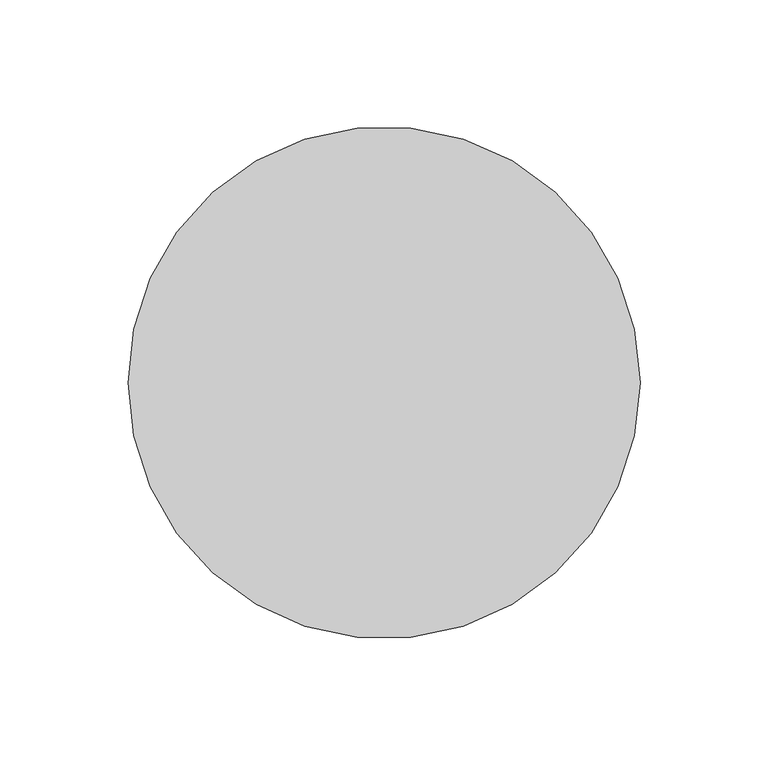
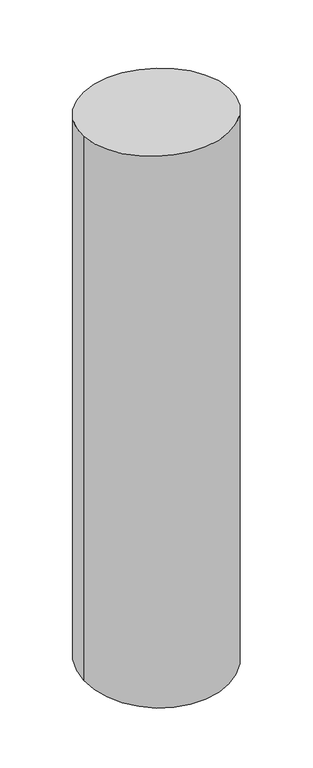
"""IFC4 building model written with IfcOpenShell, lengths in millimetres: member geometry, 矩形竖梃 : 圆瓦."""

from ifc_helpers import new_model, si_unit, frame, origin, origin_with_axes, place, context, project, spatial, ellipse_curve, source, transform, mapped, element, save
from ifc_brep_helpers import plane_surface, cylinder_surface, advanced_brep


def member_74f9c3dd(model_context):
    return source(origin(), model_context, "Body", "AdvancedBrep", [
        advanced_brep(
        [(-100.0, 0.0, 0.0), (100.0, 0.0, 0.0), (100.0, 0.0, -790.1124317), (-100.0, 0.0, -790.1124317)],
        [
            (0, 1, ellipse_curve(frame((0.0, 0.0, 0.0), z_axis=(0.0, -0.06767279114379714, -0.9977075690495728), x_axis=(0.0, -0.9977075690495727, 0.06767279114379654)), 100.2297698, 100.0)),
            (1, 2),
            (2, 3, ellipse_curve(frame((0.0, 0.0, -790.1124317), z_axis=(0.0, -0.06281655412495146, 0.9980250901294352), x_axis=(0.0, 0.9980250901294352, 0.06281655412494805)), 100.1978818, 100.0)),
            (3, 0),
            (1, 0, ellipse_curve(frame((0.0, 0.0, 0.0), z_axis=(0.0, -0.06767279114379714, -0.9977075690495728), x_axis=(0.0, -0.9977075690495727, 0.06767279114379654)), 100.2297698, 100.0)),
            (3, 2, ellipse_curve(frame((0.0, 0.0, -790.1124317), z_axis=(0.0, -0.06281655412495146, 0.9980250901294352), x_axis=(0.0, 0.9980250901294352, 0.06281655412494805)), 100.1978818, 100.0)),
        ],
        [
            cylinder_surface(origin_with_axes(), 100.0),
            plane_surface(frame((-304.8, 0.0, 0.0), z_axis=(0.0, 0.06767279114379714, 0.9977075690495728), x_axis=(0.0, 0.9977075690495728, -0.06767279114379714))),
            plane_surface(frame((-304.8, 0.0, -790.1124317), z_axis=(0.0, 0.06281655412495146, -0.9980250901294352), x_axis=(0.0, 0.9980250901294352, 0.06281655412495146))),
        ],
        [
            (0, [[1, 2, 3, 4]]),
            (0, [[5, -4, 6, -2]]),
            (1, [[-1, -5]]),
            (2, [[-6, -3]]),
        ],
    ),
    ])


if __name__ == "__main__":
    model = new_model("IFC4")
    model_context = context("Model", 3, world=origin())
    ifc_project = project(units=[si_unit("LENGTHUNIT", "METRE", prefix="MILLI")], contexts=[model_context])
    site = spatial("IfcSite", under=ifc_project)
    building = spatial("IfcBuilding", under=site)
    placement = place(None, origin())
    member_shape = member_74f9c3dd(model_context)
    element("IfcMember", 1, ObjectType="矩形竖梃 : 圆瓦", at=placement, inside=building, context=model_context, shape_type="MappedRepresentation", body=[
        mapped(member_shape, transform((0.0, 0.0, 0.0), x_axis=(1.0, 0.0, 0.0), y_axis=(0.0, 1.0, 0.0), z_axis=(0.0, 0.0, 1.0))),
    ])
    save(model, "model.ifc")
